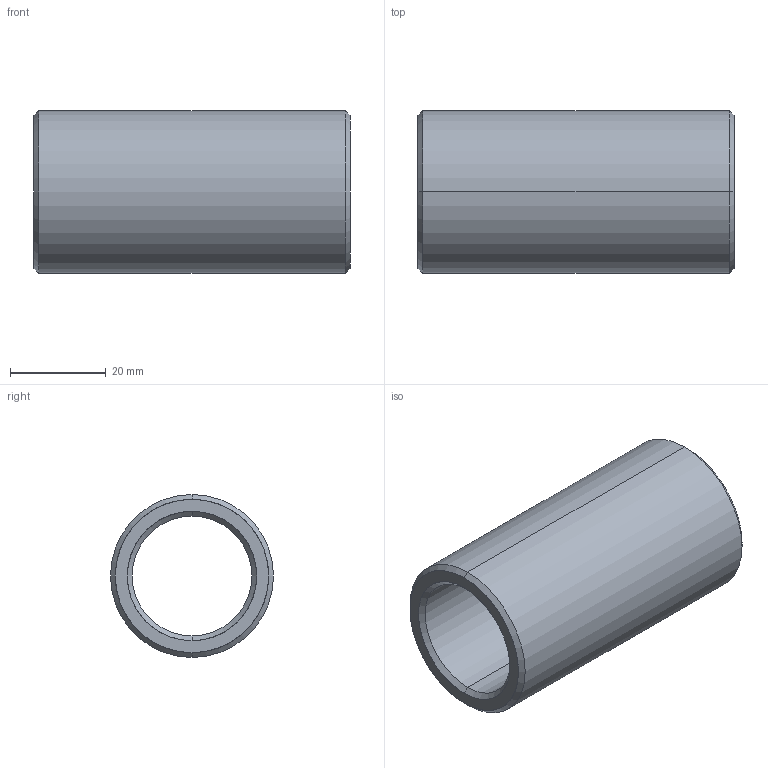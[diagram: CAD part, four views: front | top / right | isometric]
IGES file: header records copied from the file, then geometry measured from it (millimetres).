
Start section: START RECORD GO HERE.
Global section: file name: 352-25X66.igs; native system: DASSAULT SYSTEMES CATIA V5 R20 - www.3ds.com; preprocessor: CATIA Version 5 Release 20 ; author: Utente; organization: NB04-ASUS; date: 20210414.172813; units: millimetre
Bounding box: 66 x 34 x 34 mm (x, y, z)
Surface area: 12861.7 mm2 (no closed solid volume)
Topology: 0 solids, 0 shells, 14 faces, 88 edges, 88 vertices
Faces by surface type: revolution 12, plane 2
